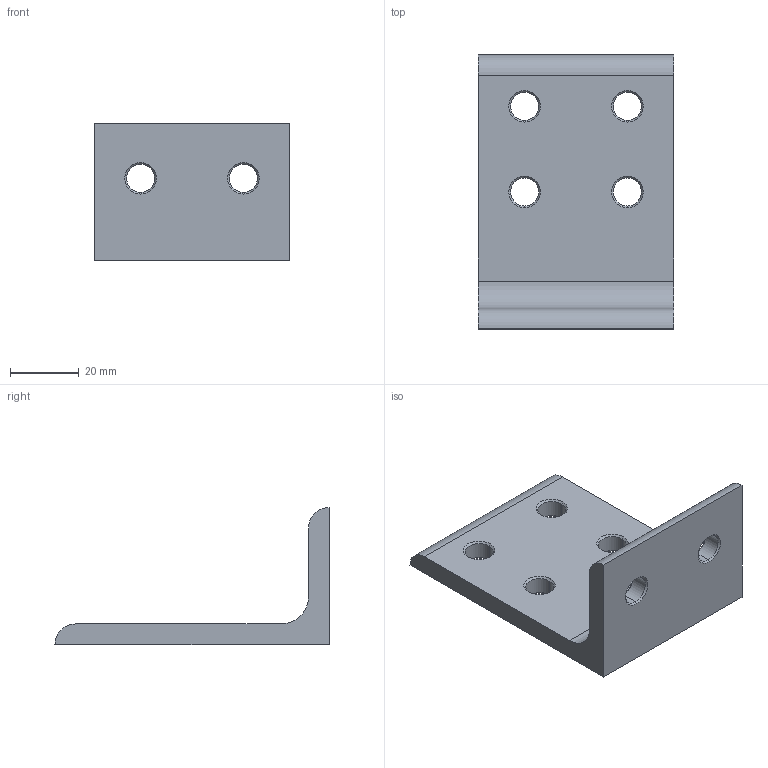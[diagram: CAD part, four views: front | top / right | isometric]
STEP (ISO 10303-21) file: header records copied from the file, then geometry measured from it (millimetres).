
FILE_DESCRIPTION (( 'STEP AP203' ), '1' );
FILE_NAME ('116060AL.STEP', '2017-04-27T11:28:47', ( '' ), ( '' ), 'SwSTEP 2.0', 'SolidWorks 2014', '' );
FILE_SCHEMA (( 'CONFIG_CONTROL_DESIGN' ));
Length unit declared in the file: millimetre
Products named in the file (1): 116060AL
Bounding box: 57 x 80 x 40 mm (x, y, z)
Volume: 36948.8 mm3; surface area: 14762.3 mm2
Topology: 1 solids, 1 shells, 45 faces, 105 edges, 62 vertices
Faces by surface type: cone 24, cylinder 15, plane 6
Entity records: 1382 total; most frequent: DIRECTION 251, CARTESIAN_POINT 213, ORIENTED_EDGE 210, EDGE_CURVE 105, AXIS2_PLACEMENT_3D 100, VERTEX_POINT 62, EDGE_LOOP 57, CIRCLE 54
